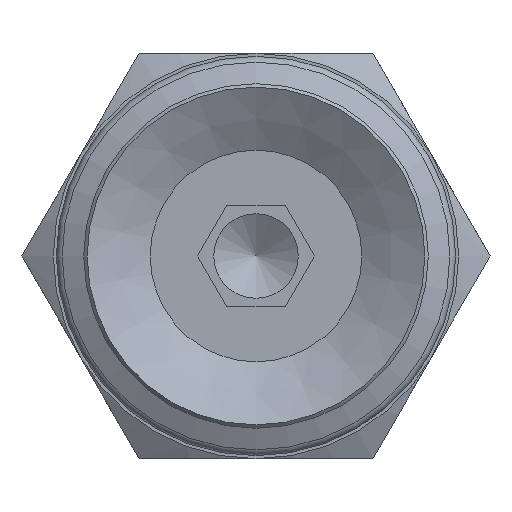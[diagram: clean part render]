
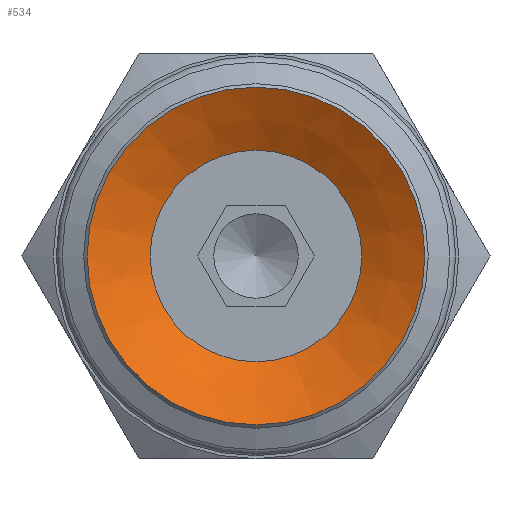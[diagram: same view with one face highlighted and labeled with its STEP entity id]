
A CAD part, front view. The second image highlights one B-rep face of the part: STEP entity #534.
In plain terms, the highlighted conical face has half-angle 60 degrees and reference radius 3.133 mm.
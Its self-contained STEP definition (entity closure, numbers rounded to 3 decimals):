
#534=ADVANCED_FACE('',(#744,#745),#746,.F.);
#744=FACE_BOUND('',#993,.T.);
#745=FACE_OUTER_BOUND('',#994,.T.);
#746=CONICAL_SURFACE('',#995,3.133,1.047);
#993=EDGE_LOOP('',(#1573));
#994=EDGE_LOOP('',(#1574));
#995=AXIS2_PLACEMENT_3D('',#1575,#1576,#1577);
#1573=ORIENTED_EDGE('',*,*,#1815,.F.);
#1574=ORIENTED_EDGE('',*,*,#1816,.T.);
#1575=CARTESIAN_POINT('',(0.0,7.659,0.));
#1576=DIRECTION('',(-0.0,-1.0,0.));
#1577=DIRECTION('',(0.0,0.,-1.0));
#1815=EDGE_CURVE('',#2071,#2071,#2072,.T.);
#1816=EDGE_CURVE('',#2073,#2073,#2074,.T.);
#2071=VERTEX_POINT('',#2877);
#2072=CIRCLE('',#2878,3.133);
#2073=VERTEX_POINT('',#2879);
#2074=CIRCLE('',#2880,5.0);
#2877=CARTESIAN_POINT('',(0.0,7.659,-3.133));
#2878=AXIS2_PLACEMENT_3D('',#3120,#3121,#3122);
#2879=CARTESIAN_POINT('',(0.0,6.581,-5.0));
#2880=AXIS2_PLACEMENT_3D('',#3123,#3124,#3125);
#3120=CARTESIAN_POINT('',(0.0,7.659,0.));
#3121=DIRECTION('',(0.0,-1.0,0.));
#3122=DIRECTION('',(0.0,0.,-1.0));
#3123=CARTESIAN_POINT('',(0.0,6.581,0.0));
#3124=DIRECTION('',(0.0,-1.0,0.));
#3125=DIRECTION('',(0.0,0.,-1.0));
